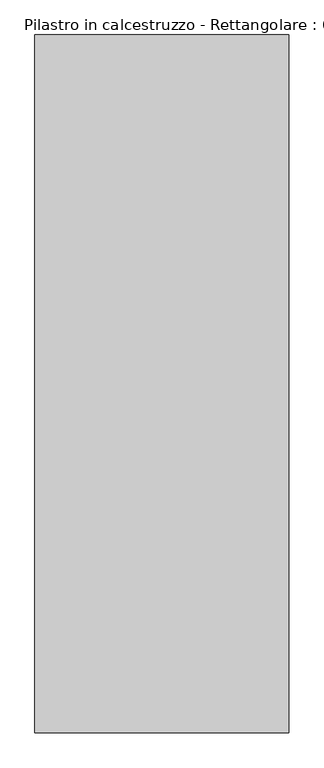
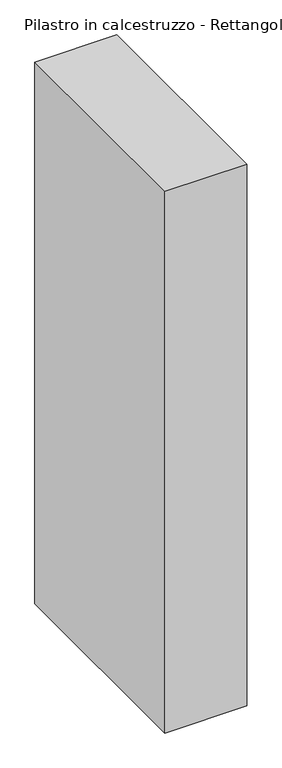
"""IFC4 building model written with IfcOpenShell, lengths in millimetres: column geometry, Pilastro in calcestruzzo - Rettangolare : 60 x 1.65."""

from ifc_helpers import new_model, si_unit, origin, origin_with_axes, place, context, project, spatial, polyline, outline, extrude, source, transform, mapped, element, save


def pilastro_in_calcestruzzo_rettangolare_60_x_1_65_b7474bd0(model_context):
    return source(origin(), model_context, "Body", "SweptSolid", [
        extrude(outline(polyline([(300.0, 825.0), (300.0, -825.0), (-300.0, -825.0), (-300.0, 825.0), (300.0, 825.0)])), origin_with_axes(), (0.0, 0.0, 1.0), 4200.0),
    ])


if __name__ == "__main__":
    model = new_model("IFC4")
    model_context = context("Model", 3, world=origin())
    ifc_project = project(units=[si_unit("LENGTHUNIT", "METRE", prefix="MILLI")], contexts=[model_context])
    site = spatial("IfcSite", under=ifc_project)
    building = spatial("IfcBuilding", under=site)
    placement = place(None, origin())
    pilastro_in_calcestruzzo_rettangolare_60_x_1_65_shape = pilastro_in_calcestruzzo_rettangolare_60_x_1_65_b7474bd0(model_context)
    element("IfcColumn", 1, ObjectType="Pilastro in calcestruzzo - Rettangolare : 60 x 1.65", at=placement, inside=building, context=model_context, shape_type="MappedRepresentation", body=[
        mapped(pilastro_in_calcestruzzo_rettangolare_60_x_1_65_shape, transform((0.0, 0.0, 0.0), x_axis=(1.0, 0.0, 0.0), y_axis=(0.0, 1.0, 0.0), z_axis=(0.0, 0.0, 1.0))),
    ])
    save(model, "model.ifc")
